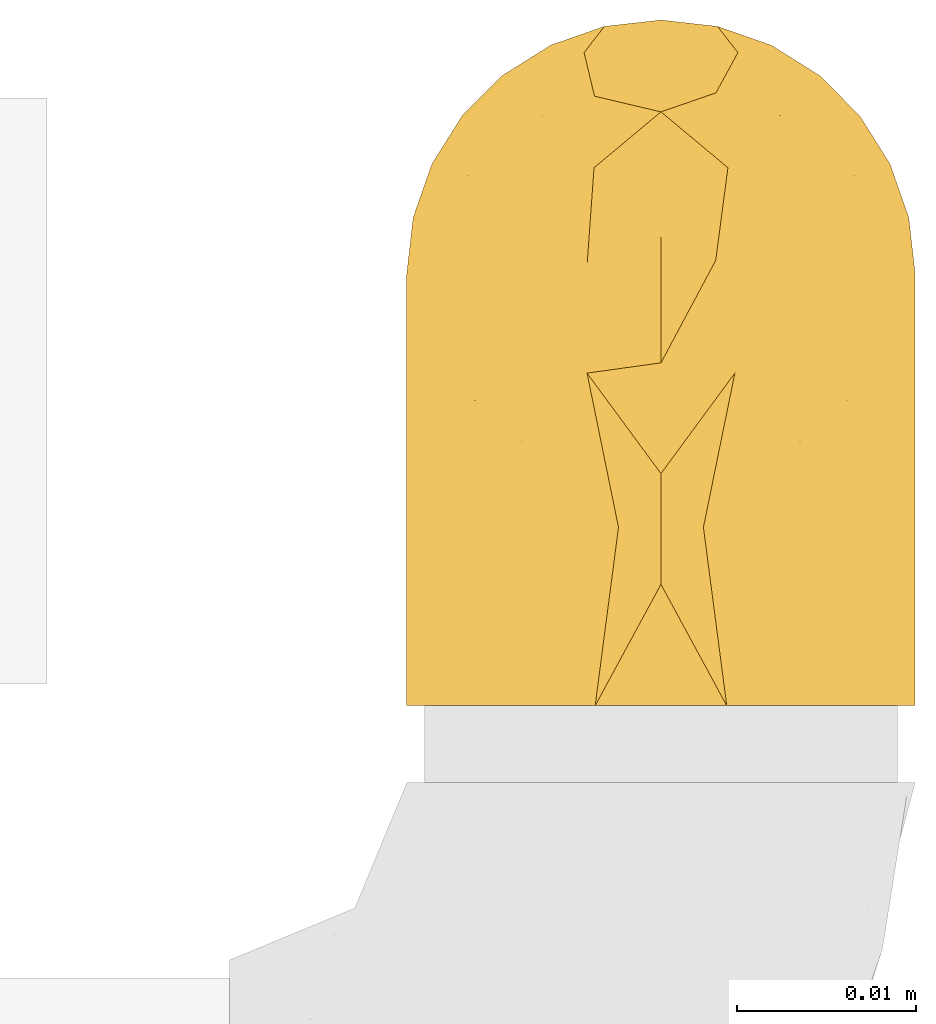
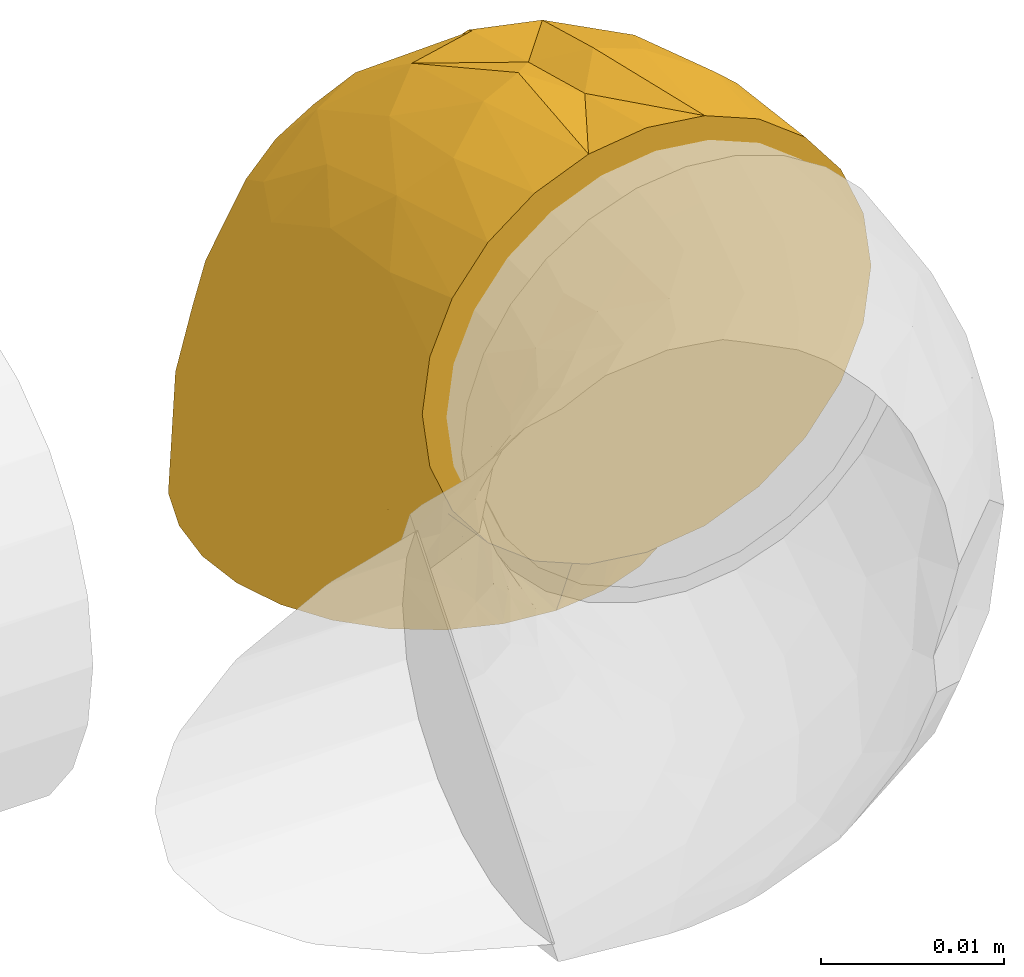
# One storey, part 4 of 4: 1 covering.
"""IFC2X3 building model written with IfcOpenShell, lengths in metres."""

from ifc_helpers import new_model, entity, si_unit, converted_unit, derived_unit, direction, frame, origin, place, context, subcontext, project, spatial, faceted_brep, material, type_object, element, save


model = new_model("IFC2X3")

# Units and contexts
model_context = context("Model", 3, precision=1e-05, world=origin(), true_north=direction((6.123031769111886e-17, 1.0)))
body_context = subcontext(model_context, "Body", "Model", "MODEL_VIEW")
ifc_project = project(units=[si_unit("LENGTHUNIT", "METRE"), si_unit("AREAUNIT", "SQUARE_METRE"), si_unit("VOLUMEUNIT", "CUBIC_METRE"), converted_unit("PLANEANGLEUNIT", "DEGREE", entity("IfcPlaneAngleMeasure", 0.017453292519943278), si_unit("PLANEANGLEUNIT", "RADIAN"), dimensions=[0, 0, 0, 0, 0, 0, 0]), si_unit("MASSUNIT", "GRAM", prefix="KILO"), derived_unit("MASSDENSITYUNIT", [(si_unit("MASSUNIT", "GRAM", prefix="KILO"), 1), (si_unit("LENGTHUNIT", "METRE"), -3)]), derived_unit("IONCONCENTRATIONUNIT", [(si_unit("MASSUNIT", "GRAM", prefix="KILO"), 1), (si_unit("LENGTHUNIT", "METRE"), -3)]), derived_unit("MOMENTOFINERTIAUNIT", [(si_unit("LENGTHUNIT", "METRE"), 4)]), si_unit("TIMEUNIT", "SECOND"), si_unit("FREQUENCYUNIT", "HERTZ"), si_unit("THERMODYNAMICTEMPERATUREUNIT", "DEGREE_CELSIUS"), derived_unit("THERMALTRANSMITTANCEUNIT", [(si_unit("MASSUNIT", "GRAM", prefix="KILO"), 1), (si_unit("THERMODYNAMICTEMPERATUREUNIT", "KELVIN"), -1), (si_unit("TIMEUNIT", "SECOND"), -3)]), derived_unit("THERMALCONDUCTANCEUNIT", [(si_unit("MASSUNIT", "GRAM", prefix="KILO"), 1), (si_unit("THERMODYNAMICTEMPERATUREUNIT", "KELVIN"), -1), (si_unit("TIMEUNIT", "SECOND"), -3), (si_unit("LENGTHUNIT", "METRE"), 1)]), derived_unit("VOLUMETRICFLOWRATEUNIT", [(si_unit("LENGTHUNIT", "METRE", prefix="DECI"), 3), (si_unit("TIMEUNIT", "SECOND"), -1)]), derived_unit("MASSFLOWRATEUNIT", [(si_unit("MASSUNIT", "GRAM", prefix="KILO"), 1), (si_unit("TIMEUNIT", "SECOND"), -1)]), derived_unit("ROTATIONALFREQUENCYUNIT", [(si_unit("TIMEUNIT", "SECOND"), -1)]), si_unit("ELECTRICCURRENTUNIT", "AMPERE"), si_unit("ELECTRICVOLTAGEUNIT", "VOLT"), si_unit("POWERUNIT", "WATT"), si_unit("FORCEUNIT", "NEWTON", prefix="KILO"), si_unit("ILLUMINANCEUNIT", "LUX"), si_unit("LUMINOUSFLUXUNIT", "LUMEN"), si_unit("LUMINOUSINTENSITYUNIT", "CANDELA"), si_unit("ENERGYUNIT", "JOULE"), derived_unit("USERDEFINED", [(si_unit("MASSUNIT", "GRAM", prefix="KILO"), -1), (si_unit("LENGTHUNIT", "METRE"), -2), (si_unit("TIMEUNIT", "SECOND"), 3), (si_unit("LUMINOUSFLUXUNIT", "LUMEN"), 1)]), derived_unit("USERDEFINED", [(si_unit("MASSUNIT", "GRAM", prefix="KILO"), 1), (si_unit("TIMEUNIT", "SECOND"), -3), (si_unit("LENGTHUNIT", "METRE"), 3), (si_unit("ELECTRICCURRENTUNIT", "AMPERE"), -2)]), derived_unit("SOUNDPOWERUNIT", [(si_unit("MASSUNIT", "GRAM", prefix="KILO"), 1), (si_unit("TIMEUNIT", "SECOND"), -3), (si_unit("LENGTHUNIT", "METRE"), 2)]), derived_unit("SOUNDPRESSUREUNIT", [(si_unit("MASSUNIT", "GRAM", prefix="KILO"), 1), (si_unit("LENGTHUNIT", "METRE"), -1), (si_unit("TIMEUNIT", "SECOND"), -2)]), derived_unit("LINEARVELOCITYUNIT", [(si_unit("LENGTHUNIT", "METRE"), 1), (si_unit("TIMEUNIT", "SECOND"), -1)]), si_unit("PRESSUREUNIT", "PASCAL"), derived_unit("USERDEFINED", [(si_unit("MASSUNIT", "GRAM", prefix="KILO"), 1), (si_unit("LENGTHUNIT", "METRE"), -2), (si_unit("TIMEUNIT", "SECOND"), -2)]), derived_unit("LINEARFORCEUNIT", [(si_unit("MASSUNIT", "GRAM", prefix="KILO"), 1), (si_unit("TIMEUNIT", "SECOND"), -2)]), derived_unit("PLANARFORCEUNIT", [(si_unit("MASSUNIT", "GRAM", prefix="KILO"), 1), (si_unit("LENGTHUNIT", "METRE"), -1), (si_unit("TIMEUNIT", "SECOND"), -2)]), derived_unit("SPECIFICHEATCAPACITYUNIT", [(si_unit("THERMODYNAMICTEMPERATUREUNIT", "KELVIN"), -1), (si_unit("LENGTHUNIT", "METRE"), 2), (si_unit("TIMEUNIT", "SECOND"), -2)]), derived_unit("HEATFLUXDENSITYUNIT", [(si_unit("MASSUNIT", "GRAM", prefix="KILO"), 1), (si_unit("TIMEUNIT", "SECOND"), -3)]), derived_unit("HEATINGVALUEUNIT", [(si_unit("LENGTHUNIT", "METRE"), 2), (si_unit("TIMEUNIT", "SECOND"), -2)]), derived_unit("VAPORPERMEABILITYUNIT", [(si_unit("LENGTHUNIT", "METRE"), -1), (si_unit("TIMEUNIT", "SECOND"), 1)]), derived_unit("DYNAMICVISCOSITYUNIT", [(si_unit("MASSUNIT", "GRAM", prefix="KILO"), 1), (si_unit("TIMEUNIT", "SECOND"), -1), (si_unit("LENGTHUNIT", "METRE"), -1)]), derived_unit("THERMALEXPANSIONCOEFFICIENTUNIT", [(si_unit("THERMODYNAMICTEMPERATUREUNIT", "KELVIN"), -1)]), derived_unit("MODULUSOFELASTICITYUNIT", [(si_unit("MASSUNIT", "GRAM", prefix="KILO"), 1), (si_unit("LENGTHUNIT", "METRE"), -1), (si_unit("TIMEUNIT", "SECOND"), -2)]), derived_unit("ISOTHERMALMOISTURECAPACITYUNIT", [(si_unit("MASSUNIT", "GRAM", prefix="KILO"), -1), (si_unit("LENGTHUNIT", "METRE"), 3)]), derived_unit("MOISTUREDIFFUSIVITYUNIT", [(si_unit("TIMEUNIT", "SECOND"), -1), (si_unit("LENGTHUNIT", "METRE"), 2)]), derived_unit("MASSPERLENGTHUNIT", [(si_unit("MASSUNIT", "GRAM", prefix="KILO"), 1), (si_unit("LENGTHUNIT", "METRE"), -1)]), derived_unit("THERMALRESISTANCEUNIT", [(si_unit("MASSUNIT", "GRAM", prefix="KILO"), -1), (si_unit("TIMEUNIT", "SECOND"), 3), (si_unit("THERMODYNAMICTEMPERATUREUNIT", "KELVIN"), 1)]), derived_unit("ACCELERATIONUNIT", [(si_unit("LENGTHUNIT", "METRE"), 1), (si_unit("TIMEUNIT", "SECOND"), -2)]), derived_unit("ANGULARVELOCITYUNIT", [(si_unit("TIMEUNIT", "SECOND"), -1), (si_unit("PLANEANGLEUNIT", "RADIAN"), 1)]), derived_unit("LINEARSTIFFNESSUNIT", [(si_unit("MASSUNIT", "GRAM", prefix="KILO"), 1), (si_unit("TIMEUNIT", "SECOND"), -2)]), derived_unit("WARPINGCONSTANTUNIT", [(si_unit("LENGTHUNIT", "METRE"), 6)]), derived_unit("LINEARMOMENTUNIT", [(si_unit("MASSUNIT", "GRAM", prefix="KILO"), 1), (si_unit("LENGTHUNIT", "METRE"), 1), (si_unit("TIMEUNIT", "SECOND"), -2)]), derived_unit("TORQUEUNIT", [(si_unit("MASSUNIT", "GRAM", prefix="KILO"), 1), (si_unit("LENGTHUNIT", "METRE"), 2), (si_unit("TIMEUNIT", "SECOND"), -2)])], contexts=[model_context])

# Site, building, storey
site_placement = place(None, origin())
site = spatial("IfcSite", under=ifc_project, at=site_placement, Name="Default", CompositionType="ELEMENT")
building_placement = place(site_placement, origin())
building = spatial("IfcBuilding", under=site, at=building_placement, CompositionType="ELEMENT")
storey_placement = place(building_placement, frame((0.0, 0.0, 2.4999999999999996)))
storey = spatial("IfcBuildingStorey", under=building, at=storey_placement, Name="Niveau 1", CompositionType="ELEMENT", Elevation=2.4999999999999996)

# Covering
ifc_material = material(Name="Matériau du rendu 255-255-255")
covering_type = type_object("IfcCoveringType", Name="Isolation des canalisations:Par défaut", PredefinedType="INSULATION")
covering_placement = place(storey_placement, frame((-13.591096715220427, 2.766331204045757, -0.039204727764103)))
element("IfcCovering", 1, at=covering_placement, inside=storey, type_object=covering_type, material=ifc_material, Name="Isolation des canalisations:Par défaut", ObjectType="Isolation des canalisations:Par défaut", PredefinedType="INSULATION", context=body_context, shape_type="Brep", body=[
    faceted_brep([(0.0019516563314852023, 0.028856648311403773, -0.03989527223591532), (0.0030025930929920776, 0.03185866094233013, -0.03989527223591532), (0.0046949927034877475, 0.03455099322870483, -0.03989527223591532), (0.006943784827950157, 0.03679892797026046, -0.03989527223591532), (0.009636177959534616, 0.03849001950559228, -0.03989527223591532), (0.0126372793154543, 0.03953966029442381, -0.03989527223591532), (0.01579527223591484, 0.03989527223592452, -0.03989527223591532), (0.01895664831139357, 0.03953888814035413, -0.03989527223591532), (0.021958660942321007, 0.038487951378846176, -0.03989527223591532), (0.024650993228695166, 0.036795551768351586, -0.03989527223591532), (0.026898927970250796, 0.0345467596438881, -0.03989527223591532), (0.028590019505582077, 0.03185436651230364, -0.03989527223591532), (0.02963966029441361, 0.028853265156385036, -0.03989527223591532), (0.029995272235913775, 0.025695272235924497, -0.03989527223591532), (0.029638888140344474, 0.022533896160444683, -0.03989527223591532), (0.028587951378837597, 0.01953188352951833, -0.03989527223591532), (0.02689555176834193, 0.016839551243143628, -0.03989527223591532), (0.02464675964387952, 0.014591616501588, -0.03989527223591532), (0.02195436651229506, 0.012900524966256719, -0.03989527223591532), (0.018953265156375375, 0.011850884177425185, -0.03989527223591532), (0.01579527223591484, 0.011495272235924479, -0.03989527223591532), (0.012633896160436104, 0.011851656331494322, -0.03989527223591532), (0.009631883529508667, 0.01290259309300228, -0.03989527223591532), (0.006939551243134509, 0.014594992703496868, -0.03989527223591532), (0.004691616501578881, 0.01684378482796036, -0.03989527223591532), (0.003000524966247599, 0.019536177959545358, -0.03989527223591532), (0.001950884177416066, 0.02253727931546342, -0.03989527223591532), (0.0015952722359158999, 0.025695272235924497, -0.03989527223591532), (0.019470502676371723, 0.0015952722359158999, -0.029511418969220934), (0.02289527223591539, 0.0015952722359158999, -0.028092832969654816), (0.025836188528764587, 0.0015952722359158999, -0.02583618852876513), (0.028092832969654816, 0.0015952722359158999, -0.02289527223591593), (0.029511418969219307, 0.0015952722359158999, -0.019470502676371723), (0.02999527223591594, 0.0015952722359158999, -0.01579527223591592), (0.029511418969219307, 0.0015952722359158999, -0.012120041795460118), (0.028092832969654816, 0.0015952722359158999, -0.00869527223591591), (0.025836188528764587, 0.0015952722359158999, -0.005754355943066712), (0.02289527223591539, 0.0015952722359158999, -0.0034977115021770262), (0.019470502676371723, 0.0015952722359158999, -0.0020791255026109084), (0.01579527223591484, 0.0015952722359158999, -0.0015952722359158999), (0.012120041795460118, 0.0015952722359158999, -0.0020791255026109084), (0.008695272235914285, 0.0015952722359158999, -0.0034977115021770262), (0.005754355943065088, 0.0015952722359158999, -0.005754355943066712), (0.0034977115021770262, 0.0015952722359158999, -0.00869527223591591), (0.002079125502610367, 0.0015952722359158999, -0.012120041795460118), (0.0015952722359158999, 0.0015952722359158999, -0.01579527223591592), (0.002079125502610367, 0.0015952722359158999, -0.019470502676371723), (0.0034977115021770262, 0.0015952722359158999, -0.02289527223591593), (0.005754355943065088, 0.0015952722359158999, -0.02583618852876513), (0.008695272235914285, 0.0015952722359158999, -0.028092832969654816), (0.012120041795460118, 0.0015952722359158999, -0.029511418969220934), (0.01579527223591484, 0.0015952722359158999, -0.02999527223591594), (0.0018566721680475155, 0.027048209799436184, -0.03146698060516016), (0.013423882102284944, 0.011558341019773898, -0.0031203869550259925), (0.01579527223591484, 0.008375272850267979, -0.003411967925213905), (0.01579527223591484, 0.014560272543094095, -0.005069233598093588), (0.0033376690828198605, 0.014682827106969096, -0.011886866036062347), (0.005049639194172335, 0.010357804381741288, -0.007682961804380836), (0.0054096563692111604, 0.018634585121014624, -0.010723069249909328), (0.0019283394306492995, 0.024053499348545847, -0.024625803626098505), (0.0015952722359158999, 0.022466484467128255, -0.027845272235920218), (0.011502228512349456, 0.03807237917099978, -0.030629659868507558), (0.009156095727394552, 0.0345865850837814, -0.023927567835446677), (0.012083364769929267, 0.03564178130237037, -0.02345906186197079), (0.0022458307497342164, 0.020408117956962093, -0.018688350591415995), (0.0015952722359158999, 0.018055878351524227, -0.023434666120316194), (0.008040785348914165, 0.016364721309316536, -0.007069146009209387), (0.010786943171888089, 0.0107970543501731, -0.0036578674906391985), (0.01166657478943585, 0.02017277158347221, -0.0071057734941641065), (0.00294646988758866, 0.007491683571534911, -0.010332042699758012), (0.0019132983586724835, 0.010237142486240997, -0.01422229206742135), (0.008787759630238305, 0.025582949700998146, -0.012450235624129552), (0.0015952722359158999, 0.0136452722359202, -0.019024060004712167), (0.0015952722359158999, 0.010976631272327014, -0.0183089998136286), (0.0015952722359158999, 0.008307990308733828, -0.017593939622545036), (0.0015952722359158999, 0.007620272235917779, -0.017409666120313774), (0.0015952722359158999, 0.004951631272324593, -0.01669460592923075), (0.0026820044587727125, 0.025175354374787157, -0.02208875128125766), (0.0035716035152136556, 0.021556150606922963, -0.0157517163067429), (0.003863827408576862, 0.026742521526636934, -0.020432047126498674), (0.004162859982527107, 0.03307723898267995, -0.03292603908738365), (0.0063228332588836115, 0.034991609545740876, -0.030551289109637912), (0.00861663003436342, 0.03729777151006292, -0.03305521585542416), (0.01579527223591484, 0.03642131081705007, -0.026930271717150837), (0.002659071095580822, 0.030395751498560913, -0.03354339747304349), (0.00302466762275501, 0.028738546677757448, -0.026409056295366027), (0.00754829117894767, 0.008485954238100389, -0.004907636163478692), (0.0015952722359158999, 0.024795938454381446, -0.03653891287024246), (0.0015952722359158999, 0.024080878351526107, -0.0338702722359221), (0.0015952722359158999, 0.023896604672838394, -0.033182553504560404), (0.0015952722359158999, 0.023181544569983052, -0.03051391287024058), (0.004997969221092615, 0.031219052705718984, -0.024636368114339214), (0.007159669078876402, 0.030558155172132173, -0.019588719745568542), (0.01579527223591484, 0.03807857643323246, -0.03311527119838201), (0.0053905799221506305, 0.02555410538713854, -0.016105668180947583), (0.01579527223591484, 0.02775465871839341, -0.01373588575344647), (0.01579527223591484, 0.03476404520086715, -0.02074527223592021), (0.012056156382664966, 0.03164333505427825, -0.016963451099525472), (0.01579527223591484, 0.02074527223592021, -0.006726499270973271), (0.011681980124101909, 0.02639706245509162, -0.011513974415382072), (0.009491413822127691, 0.03130855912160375, -0.018143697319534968), (0.0015952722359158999, 0.015850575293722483, -0.02122936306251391), (0.0015952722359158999, 0.02026118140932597, -0.025639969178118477), (0.0022134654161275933, 0.019055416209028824, -0.030232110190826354), (0.002761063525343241, 0.01941299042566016, -0.03504783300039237), (0.0040506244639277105, 0.016324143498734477, -0.033347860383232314), (0.001920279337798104, 0.010083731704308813, -0.020600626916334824), (0.0021022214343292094, 0.005334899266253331, -0.019902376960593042), (0.005860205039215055, 0.0061244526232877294, -0.026696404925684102), (0.006234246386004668, 0.008851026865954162, -0.028391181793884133), (0.008939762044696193, 0.006997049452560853, -0.02955694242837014), (0.0032572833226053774, 0.01197247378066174, -0.025886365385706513), (0.002001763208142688, 0.012855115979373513, -0.02249376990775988), (0.0020805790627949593, 0.01560481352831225, -0.02503988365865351), (0.009727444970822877, 0.003990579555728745, -0.028891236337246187), (0.0025332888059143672, 0.006747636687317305, -0.021581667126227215), (0.004009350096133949, 0.004778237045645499, -0.024031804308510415), (0.012324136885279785, 0.007441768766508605, -0.03137801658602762), (0.01579527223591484, 0.008595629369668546, -0.03289491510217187), (0.01579527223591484, 0.005095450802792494, -0.03144509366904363), (0.011751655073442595, 0.009650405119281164, -0.03317880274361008), (0.001949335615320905, 0.02227559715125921, -0.036552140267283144), (0.012616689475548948, 0.010954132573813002, -0.03568980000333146), (0.009696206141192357, 0.011348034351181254, -0.034234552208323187), (0.010446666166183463, 0.012210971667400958, -0.03722732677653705), (0.007063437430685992, 0.013823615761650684, -0.03578073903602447), (0.0071249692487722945, 0.012045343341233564, -0.03241002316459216), (0.008828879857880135, 0.009717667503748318, -0.031437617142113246), (0.004930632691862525, 0.016254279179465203, -0.03692594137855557), (0.0018816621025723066, 0.021842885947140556, -0.03340468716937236), (0.012792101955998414, 0.004526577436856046, -0.0301034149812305), (0.01579527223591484, 0.010045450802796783, -0.036395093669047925), (0.0031282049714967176, 0.015405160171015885, -0.028851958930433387), (0.004981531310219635, 0.014108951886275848, -0.031813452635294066), (0.004122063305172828, 0.008820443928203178, -0.025603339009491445), (0.002976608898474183, 0.008460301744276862, -0.02326573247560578), (0.002051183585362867, 0.017780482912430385, -0.027264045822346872), (0.005370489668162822, 0.011880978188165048, -0.029734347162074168), (0.022758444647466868, 0.009715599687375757, -0.031438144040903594), (0.019266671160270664, 0.00744181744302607, -0.03137796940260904), (0.019833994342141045, 0.00964979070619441, -0.03318033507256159), (0.029995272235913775, 0.024795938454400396, -0.036538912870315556), (0.019964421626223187, 0.004806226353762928, -0.02987116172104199), (0.029995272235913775, 0.01097663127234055, -0.01830899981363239), (0.029670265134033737, 0.010083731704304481, -0.020600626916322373), (0.029995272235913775, 0.0136452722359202, -0.019024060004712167), (0.022374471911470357, 0.0041996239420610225, -0.028677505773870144), (0.029488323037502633, 0.005334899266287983, -0.01990237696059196), (0.029995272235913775, 0.004951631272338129, -0.016694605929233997), (0.02621477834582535, 0.011877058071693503, -0.02973849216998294), (0.028458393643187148, 0.01539894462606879, -0.028856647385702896), (0.02832921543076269, 0.011966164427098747, -0.025891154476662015), (0.028613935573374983, 0.008460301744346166, -0.023265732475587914), (0.029057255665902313, 0.006747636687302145, -0.02158166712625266), (0.027581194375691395, 0.004778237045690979, -0.024031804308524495), (0.025730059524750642, 0.006123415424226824, -0.026696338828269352), (0.02535501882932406, 0.00884885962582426, -0.028391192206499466), (0.02264995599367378, 0.0069939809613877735, -0.029555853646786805), (0.021139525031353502, 0.01220936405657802, -0.03722818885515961), (0.018971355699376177, 0.01095411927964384, -0.03569117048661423), (0.028827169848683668, 0.019407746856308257, -0.03504891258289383), (0.029640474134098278, 0.0222720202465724, -0.036550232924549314), (0.024522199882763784, 0.013820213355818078, -0.03578262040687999), (0.029995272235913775, 0.024080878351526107, -0.0338702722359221), (0.029995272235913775, 0.023896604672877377, -0.03318255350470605), (0.029376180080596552, 0.01905004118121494, -0.030228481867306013), (0.02753599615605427, 0.016318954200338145, -0.03335039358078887), (0.02665593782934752, 0.016249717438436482, -0.036927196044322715), (0.02188945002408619, 0.011346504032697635, -0.03423654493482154), (0.024460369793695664, 0.012042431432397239, -0.03241284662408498), (0.027467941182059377, 0.008816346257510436, -0.025602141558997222), (0.029588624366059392, 0.01285993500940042, -0.02249765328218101), (0.029995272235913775, 0.023181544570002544, -0.030513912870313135), (0.029995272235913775, 0.022466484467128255, -0.027845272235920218), (0.02968842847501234, 0.021177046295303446, -0.031866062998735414), (0.026604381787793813, 0.014104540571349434, -0.03181664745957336), (0.029534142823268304, 0.017767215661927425, -0.02727960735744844), (0.029995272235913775, 0.018055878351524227, -0.023434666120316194), (0.029507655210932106, 0.015607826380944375, -0.02505454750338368), (0.029995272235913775, 0.02026118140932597, -0.025639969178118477), (0.029995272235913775, 0.015850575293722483, -0.02122936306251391), (0.029995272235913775, 0.008307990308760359, -0.017593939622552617), (0.029995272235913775, 0.007620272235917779, -0.017409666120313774), (0.026540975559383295, 0.010356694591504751, -0.00768274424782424), (0.02825307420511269, 0.014679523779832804, -0.011885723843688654), (0.02618120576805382, 0.018634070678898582, -0.01072316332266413), (0.02743049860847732, 0.033073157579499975, -0.03292620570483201), (0.029677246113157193, 0.010237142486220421, -0.014222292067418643), (0.022802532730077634, 0.025592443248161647, -0.012458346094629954), (0.01953627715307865, 0.03164297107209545, -0.01696382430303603), (0.01885314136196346, 0.026466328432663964, -0.011208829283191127), (0.024434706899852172, 0.030556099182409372, -0.0195909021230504), (0.026595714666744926, 0.03121596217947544, -0.024638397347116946), (0.0252715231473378, 0.03498806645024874, -0.030551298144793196), (0.02864417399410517, 0.007489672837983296, -0.010331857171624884), (0.02080353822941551, 0.0107983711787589, -0.0036581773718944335), (0.023549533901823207, 0.016368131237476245, -0.007070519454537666), (0.01992365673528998, 0.02017317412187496, -0.0071058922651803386), (0.028567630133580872, 0.028735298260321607, -0.02641062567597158), (0.028146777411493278, 0.024984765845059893, -0.01938921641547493), (0.02966223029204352, 0.024053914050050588, -0.02462661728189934), (0.0200920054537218, 0.03807109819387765, -0.03062937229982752), (0.029734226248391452, 0.027046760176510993, -0.031468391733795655), (0.024042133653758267, 0.008487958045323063, -0.004907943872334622), (0.02297803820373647, 0.03729500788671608, -0.03305363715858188), (0.022438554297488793, 0.03458457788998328, -0.023928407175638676), (0.029344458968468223, 0.020410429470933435, -0.018689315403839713), (0.02839654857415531, 0.020003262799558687, -0.015393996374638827), (0.018166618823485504, 0.011558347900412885, -0.0031203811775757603), (0.026203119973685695, 0.025551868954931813, -0.016108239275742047), (0.028933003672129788, 0.030392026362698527, -0.033543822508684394), (0.0188626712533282, 0.035822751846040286, -0.02346964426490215), (0.02210229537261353, 0.03130512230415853, -0.01814165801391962)], [[[0, 1, 2, 3, 4, 5, 6, 7, 8, 9, 10, 11, 12, 13, 14, 15, 16, 17, 18, 19, 20, 21, 22, 23, 24, 25, 26, 27]], [[28, 29, 30, 31, 32, 33, 34, 35, 36, 37, 38, 39, 40, 41, 42, 43, 44, 45, 46, 47, 48, 49, 50, 51]], [[27, 52, 0]], [[53, 54, 55]], [[56, 57, 58]], [[59, 52, 60]], [[61, 62, 63]], [[64, 59, 65]], [[66, 67, 68]], [[57, 56, 69]], [[70, 45, 44]], [[43, 42, 57]], [[66, 68, 71]], [[70, 72, 73, 74, 75, 76, 45]], [[44, 43, 69]], [[77, 78, 79]], [[80, 81, 2]], [[41, 40, 67]], [[82, 62, 61]], [[2, 81, 3]], [[63, 83, 61]], [[61, 5, 4]], [[84, 52, 85]], [[40, 39, 54]], [[58, 78, 56]], [[66, 86, 67]], [[86, 42, 41]], [[52, 27, 87, 88, 89, 90, 60]], [[91, 92, 81]], [[70, 64, 72]], [[80, 2, 1]], [[93, 5, 61]], [[1, 0, 84]], [[93, 6, 5]], [[81, 80, 91]], [[4, 82, 61]], [[54, 53, 40]], [[82, 4, 3]], [[68, 67, 53]], [[86, 57, 42]], [[58, 94, 78]], [[69, 70, 44]], [[64, 70, 56]], [[78, 64, 56]], [[85, 52, 59]], [[3, 81, 82]], [[62, 82, 81]], [[84, 80, 1]], [[91, 80, 85]], [[79, 91, 85]], [[91, 94, 92]], [[95, 96, 97]], [[94, 58, 71]], [[98, 95, 99]], [[99, 95, 97]], [[92, 62, 81]], [[92, 100, 62]], [[68, 99, 71]], [[52, 84, 0]], [[80, 84, 85]], [[67, 86, 41]], [[57, 86, 66]], [[57, 66, 58]], [[71, 58, 66]], [[64, 65, 101, 72]], [[77, 79, 85]], [[59, 60, 102, 65]], [[94, 71, 92]], [[71, 99, 100]], [[68, 53, 55]], [[98, 68, 55]], [[40, 53, 67]], [[71, 100, 92]], [[63, 100, 97]], [[57, 69, 43]], [[70, 69, 56]], [[100, 63, 62]], [[83, 93, 61]], [[79, 78, 94]], [[91, 79, 94]], [[85, 59, 77]], [[59, 64, 77]], [[78, 77, 64]], [[99, 68, 98]], [[100, 99, 97]], [[97, 96, 63]], [[83, 63, 96]], [[103, 104, 105]], [[72, 106, 73]], [[47, 46, 107]], [[107, 46, 76]], [[108, 109, 110]], [[111, 112, 113]], [[108, 110, 114]], [[47, 115, 116]], [[117, 118, 119]], [[108, 49, 48]], [[118, 117, 120]], [[25, 121, 26]], [[49, 114, 50]], [[122, 123, 124]], [[124, 125, 22]], [[126, 123, 127]], [[128, 104, 24]], [[129, 103, 60]], [[24, 104, 25]], [[27, 26, 87]], [[123, 120, 127]], [[130, 117, 119]], [[107, 76, 75, 74, 73]], [[131, 118, 122, 20]], [[105, 132, 103]], [[21, 124, 22]], [[23, 22, 125]], [[121, 87, 26]], [[126, 133, 125]], [[130, 110, 117]], [[123, 122, 120]], [[128, 24, 23]], [[50, 130, 51]], [[128, 125, 105]], [[129, 121, 104]], [[116, 108, 48]], [[134, 135, 111]], [[135, 112, 111]], [[127, 120, 117]], [[21, 20, 122]], [[125, 124, 123]], [[21, 122, 124]], [[105, 133, 132]], [[136, 103, 132]], [[111, 132, 137]], [[113, 136, 132]], [[111, 137, 109]], [[112, 106, 72]], [[118, 120, 122]], [[127, 117, 110]], [[109, 127, 110]], [[126, 127, 137]], [[133, 126, 137]], [[125, 123, 126]], [[132, 133, 137]], [[125, 133, 105]], [[125, 128, 23]], [[104, 128, 105]], [[113, 101, 65]], [[101, 113, 112]], [[102, 136, 65]], [[132, 111, 113]], [[103, 102, 60]], [[104, 121, 25]], [[121, 89, 88, 87]], [[129, 60, 90, 89]], [[121, 129, 89]], [[115, 107, 106]], [[106, 112, 135]], [[73, 106, 107]], [[106, 135, 115]], [[116, 115, 135]], [[47, 107, 115]], [[116, 135, 134]], [[47, 116, 48]], [[51, 130, 119]], [[130, 50, 114]], [[112, 72, 101]], [[108, 114, 49]], [[130, 114, 110]], [[65, 136, 113]], [[102, 103, 136]], [[46, 45, 76]], [[109, 108, 134]], [[127, 109, 137]], [[109, 134, 111]], [[116, 134, 108]], [[103, 129, 104]], [[138, 139, 140]], [[14, 13, 141]], [[119, 142, 51]], [[139, 142, 119]], [[143, 144, 145]], [[142, 146, 28]], [[147, 148, 32]], [[149, 150, 151]], [[152, 153, 154]], [[118, 139, 119]], [[155, 29, 146]], [[138, 156, 157]], [[158, 159, 19]], [[157, 139, 138]], [[18, 158, 19]], [[160, 15, 161]], [[17, 162, 18]], [[161, 141, 163, 164]], [[160, 165, 166]], [[147, 32, 31]], [[17, 16, 167]], [[168, 158, 162]], [[160, 166, 167]], [[149, 138, 169]], [[170, 156, 151]], [[151, 171, 152]], [[172, 173, 174, 164]], [[14, 161, 15]], [[155, 30, 29]], [[160, 16, 15]], [[19, 159, 20]], [[118, 131, 20, 159]], [[169, 175, 149]], [[167, 162, 17]], [[174, 165, 160]], [[156, 155, 157]], [[155, 170, 154]], [[150, 166, 165]], [[118, 159, 140]], [[142, 139, 157]], [[162, 158, 18]], [[159, 158, 168]], [[159, 168, 140]], [[176, 177, 178]], [[150, 149, 175]], [[176, 178, 150]], [[171, 145, 144]], [[165, 179, 176]], [[170, 151, 152]], [[140, 168, 138]], [[118, 140, 139]], [[169, 138, 168]], [[156, 138, 149]], [[168, 162, 169]], [[175, 162, 166]], [[162, 175, 169]], [[150, 175, 166]], [[160, 167, 16]], [[162, 167, 166]], [[178, 171, 151]], [[178, 180, 171]], [[151, 150, 178]], [[165, 173, 179]], [[176, 150, 165]], [[141, 161, 14]], [[174, 173, 165]], [[174, 161, 164]], [[152, 144, 153]], [[147, 143, 181, 182, 148]], [[147, 153, 144]], [[147, 144, 143]], [[171, 144, 152]], [[147, 31, 153]], [[154, 31, 30]], [[31, 154, 153]], [[155, 154, 30]], [[146, 142, 157]], [[142, 28, 51]], [[155, 146, 157]], [[28, 146, 29]], [[180, 178, 177]], [[180, 145, 171]], [[177, 176, 179]], [[148, 33, 32]], [[151, 156, 149]], [[154, 170, 152]], [[156, 170, 155]], [[161, 174, 160]], [[183, 184, 185]], [[10, 186, 11]], [[187, 33, 148, 182, 181, 143, 145]], [[188, 189, 190]], [[191, 192, 193]], [[34, 194, 35]], [[195, 38, 37]], [[195, 196, 197]], [[194, 183, 35]], [[54, 39, 38]], [[183, 36, 35]], [[98, 55, 197]], [[198, 199, 200]], [[8, 7, 201]], [[200, 173, 202]], [[203, 195, 37]], [[13, 12, 202]], [[36, 203, 37]], [[9, 193, 10]], [[204, 205, 193]], [[187, 206, 207]], [[193, 186, 10]], [[7, 6, 93]], [[55, 208, 197]], [[186, 192, 198]], [[201, 204, 8]], [[192, 199, 198]], [[192, 191, 209]], [[202, 173, 172, 164, 163, 141, 13]], [[7, 93, 201]], [[210, 202, 12]], [[204, 9, 8]], [[33, 187, 34]], [[11, 210, 12]], [[83, 96, 211]], [[207, 206, 199]], [[38, 195, 208]], [[207, 185, 184]], [[203, 183, 196]], [[206, 187, 145]], [[194, 187, 184]], [[206, 177, 200]], [[206, 200, 199]], [[205, 204, 201]], [[193, 9, 204]], [[192, 186, 193]], [[210, 186, 198]], [[191, 193, 205]], [[199, 192, 209]], [[196, 185, 188]], [[190, 98, 197]], [[197, 196, 188]], [[95, 189, 96]], [[211, 205, 201]], [[190, 189, 95]], [[212, 188, 191]], [[186, 210, 11]], [[202, 210, 198]], [[183, 203, 36]], [[195, 203, 196]], [[188, 185, 209]], [[196, 183, 185]], [[198, 200, 202]], [[212, 191, 205]], [[206, 145, 180, 177]], [[200, 177, 179, 173]], [[188, 209, 191]], [[38, 208, 54]], [[54, 208, 55]], [[197, 208, 195]], [[205, 189, 212]], [[188, 212, 189]], [[187, 194, 34]], [[183, 194, 184]], [[189, 211, 96]], [[201, 93, 83]], [[209, 185, 207]], [[207, 199, 209]], [[187, 207, 184]], [[98, 190, 95]], [[188, 190, 197]], [[205, 211, 189]], [[83, 211, 201]]]),
])

save(model, "model.ifc")
